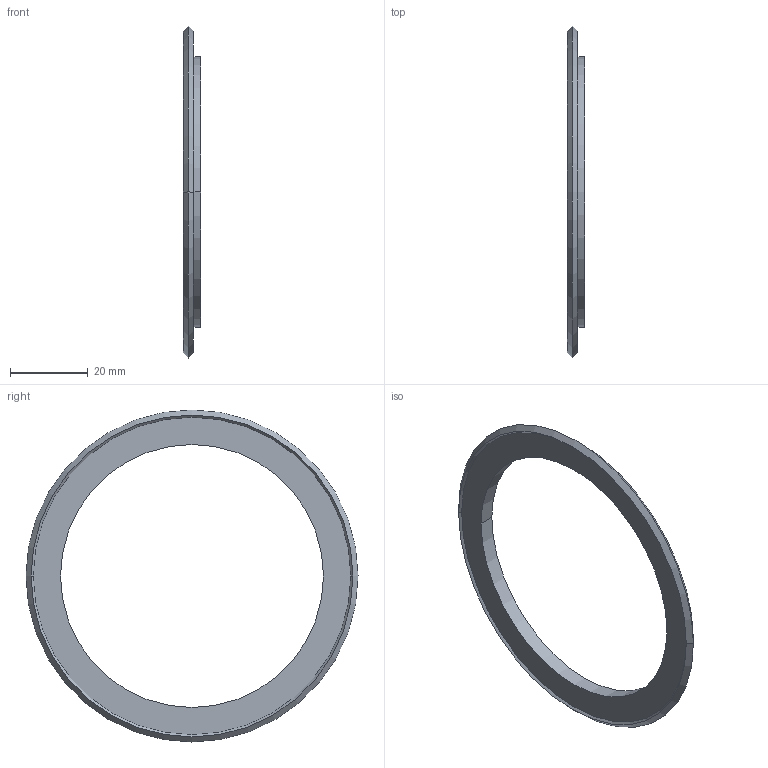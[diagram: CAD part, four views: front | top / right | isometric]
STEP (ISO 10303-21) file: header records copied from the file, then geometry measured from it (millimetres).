
FILE_DESCRIPTION((''),'2;1');
FILE_NAME('W:\212-301.stp','2004-01-08T15:55:16',('KAA'),(''),'Autodesk Inventor (R) 6.0','Autodesk Inventor (R) 6.0','');
FILE_SCHEMA(('CONFIG_CONTROL_DESIGN'));
Length unit declared in the file: millimetre
Products named in the file (1): 212-301
Bounding box: 4.5 x 85.6 x 85.6 mm (x, y, z)
Volume: 3761.3 mm3; surface area: 6033.3 mm2
Topology: 1 solids, 1 shells, 17 faces, 37 edges, 23 vertices
Faces by surface type: cone 8, cylinder 4, plane 3, bspline 2
Entity records: 655 total; most frequent: CARTESIAN_POINT 166, DIRECTION 94, ORIENTED_EDGE 74, AXIS2_PLACEMENT_3D 41, EDGE_CURVE 37, CIRCLE 25, VERTEX_POINT 23, EDGE_LOOP 20
